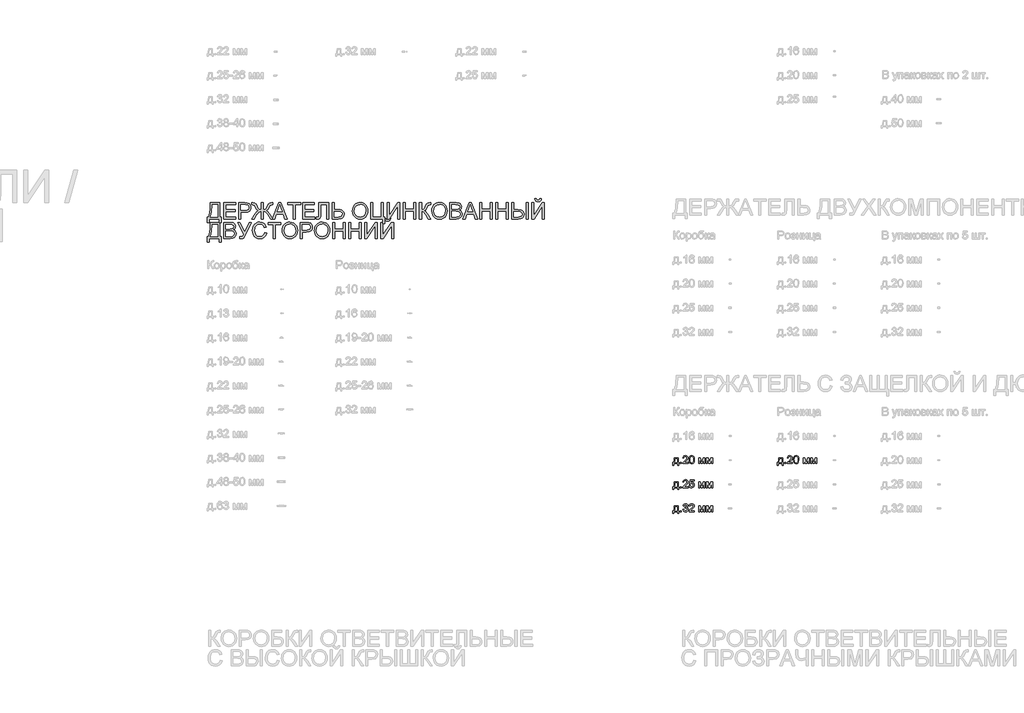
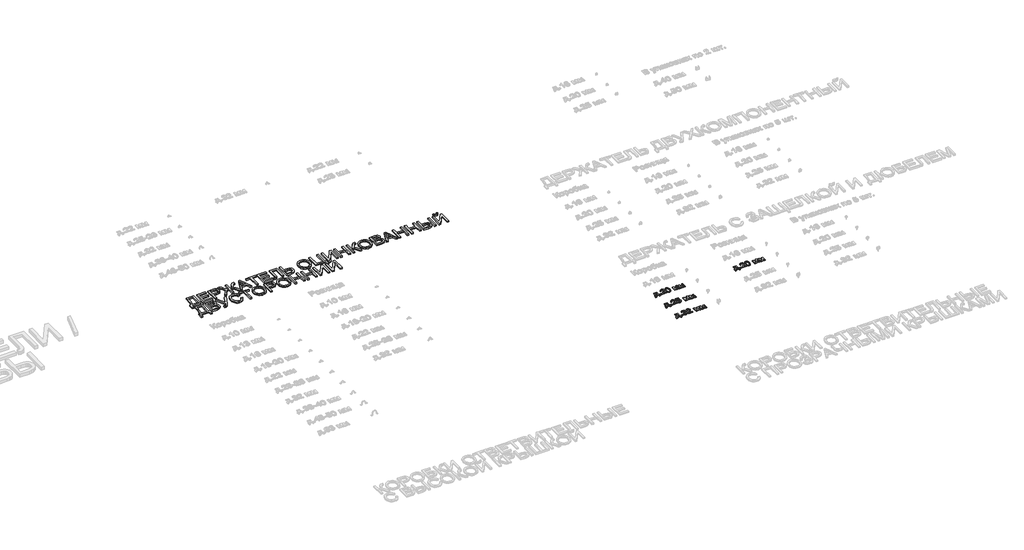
# One storey, part 35 of 98: 5 proxies.
"""IFC4 building model written with IfcOpenShell, lengths in millimetres."""

from ifc_helpers import new_model, si_unit, origin, origin_with_axes, place, context, project, spatial, polyline, outline, extrude, element, save

model = new_model("IFC4")

# Units and contexts
model_context = context("Model", 3, world=origin())
ifc_project = project(units=[si_unit("LENGTHUNIT", "METRE", prefix="MILLI")], contexts=[model_context])

# Site, building, storey
site = spatial("IfcSite", under=ifc_project)
building = spatial("IfcBuilding", under=site)
storey = spatial("IfcBuildingStorey", under=building, Name="Этаж 01", Elevation=0.0)

# Proxies
placement = place(None, origin())
element("IfcBuildingElementProxy", 1, Name="100", ObjectType="100", at=placement, inside=storey, context=model_context, shape_type="SweptSolid", body=[
    extrude(outline(polyline([(5774.7606918, -39085.7395637), (5821.8495872, -39085.7395637), (5821.8495872, -39146.9551277), (5831.2673663, -39146.9551277), (5831.2673663, -39179.9173545), (5818.7103275, -39179.9173545), (5818.7103275, -39159.5121665), (5766.9125426, -39159.5121665), (5766.9125426, -39179.9173545), (5754.3555038, -39179.9173545), (5754.3555038, -39146.9551277), (5762.2036531, -39146.9551277), (5771.903475, -39123.0060098), (5774.7606918, -39085.7395637)]), holes=[polyline([(5785.7481007, -39098.2966025), (5782.8050448, -39126.905559), (5776.3303217, -39146.9551277), (5809.2925484, -39146.9551277), (5809.2925484, -39098.2966025), (5785.7481007, -39098.2966025)])]), origin_with_axes(), (0.0, 0.0, 1.0), 10.0),
    extrude(outline(polyline([(5848.5332946, -39159.5121665), (5848.5332946, -39146.9551277), (5861.0903334, -39146.9551277), (5861.0903334, -39159.5121665), (5848.5332946, -39159.5121665)])), origin_with_axes(), (0.0, 0.0, 1.0), 10.0),
    extrude(outline(polyline([(5945.850345, -39146.9551277), (5945.850345, -39159.5121665), (5879.9258915, -39159.5121665), (5881.2747922, -39150.8546768), (5888.9022122, -39137.5250859), (5904.6230361, -39122.9692216), (5926.3035484, -39102.0489988), (5931.7236764, -39087.8242283), (5926.6101167, -39076.3095219), (5913.2560003, -39071.6128951), (5899.3377981, -39076.1991573), (5894.0525601, -39088.8788234), (5881.4955214, -39087.3091935), (5884.5397449, -39075.1629563), (5891.1217669, -39066.2908689), (5900.8982309, -39060.8646095), (5913.5257804, -39059.0558563), (5926.2453004, -39061.0669445), (5936.0033703, -39067.1002093), (5942.211379, -39076.1133182), (5944.2807152, -39087.0639389), (5942.0488978, -39098.9710528), (5934.6299442, -39111.2828369), (5916.6405146, -39128.4874515), (5902.195015, -39140.5662437), (5896.5296322, -39146.9551277), (5945.850345, -39146.9551277)])), origin_with_axes(), (0.0, 0.0, 1.0), 10.0),
    extrude(outline(polyline([(5958.4073838, -39110.0933518), (5962.0984665, -39081.1900897), (5973.06135, -39064.5250353), (5991.3696106, -39059.0558563), (6006.0358395, -39062.2932179), (6016.1648571, -39071.6251578), (6022.050969, -39086.4875904), (6024.3318374, -39110.0933518), (6020.6775429, -39138.8739865), (6009.7514476, -39155.5758291), (6001.520088, -39159.7053045), (5991.3696106, -39161.0817963), (5978.3220625, -39158.6905633), (5968.4137741, -39151.5168644), (5960.9089814, -39134.5268476), (5958.4073838, -39110.0933518)]), holes=[polyline([(5970.9644226, -39110.0688263), (5972.4359506, -39129.8210238), (5976.8505345, -39141.2529568), (5983.4233595, -39146.7068073), (5991.3696106, -39148.5247575), (5999.3158617, -39146.700676), (6005.8886867, -39141.2284313), (6010.3032706, -39129.7903669), (6011.7747986, -39110.0688263), (6010.3523215, -39090.7611529), (6006.0848904, -39079.2403151), (5999.5243281, -39073.5197501), (5991.2224578, -39071.6128951), (5983.3620458, -39073.2928895), (5977.0467382, -39078.3328729), (5972.4850015, -39090.5710806), (5970.9644226, -39110.0688263)])]), origin_with_axes(), (0.0, 0.0, 1.0), 10.0),
    extrude(outline(polyline([(6077.6992521, -39085.7395637), (6099.306188, -39085.7395637), (6115.9589796, -39144.7968867), (6133.911621, -39085.7395637), (6154.6111146, -39085.7395637), (6154.6111146, -39159.5121665), (6142.0540758, -39159.5121665), (6142.0540758, -39100.111487), (6124.0033326, -39159.5121665), (6107.5222192, -39159.5121665), (6090.2562909, -39097.2665329), (6090.2562909, -39159.5121665), (6077.6992521, -39159.5121665), (6077.6992521, -39085.7395637)])), origin_with_axes(), (0.0, 0.0, 1.0), 10.0),
    extrude(outline(polyline([(6173.4466727, -39085.7395637), (6195.0536086, -39085.7395637), (6211.7064002, -39144.7968867), (6229.6590416, -39085.7395637), (6250.3585352, -39085.7395637), (6250.3585352, -39159.5121665), (6237.8014964, -39159.5121665), (6237.8014964, -39100.111487), (6219.7507532, -39159.5121665), (6203.2696398, -39159.5121665), (6186.0037115, -39097.2665329), (6186.0037115, -39159.5121665), (6173.4466727, -39159.5121665), (6173.4466727, -39085.7395637)])), origin_with_axes(), (0.0, 0.0, 1.0), 10.0),
])
element("IfcBuildingElementProxy", 2, Name="100", ObjectType="100", at=placement, inside=storey, context=model_context, shape_type="SweptSolid", body=[
    extrude(outline(polyline([(5774.7606918, -39385.7395637), (5821.8495872, -39385.7395637), (5821.8495872, -39446.9551277), (5831.2673663, -39446.9551277), (5831.2673663, -39479.9173545), (5818.7103275, -39479.9173545), (5818.7103275, -39459.5121665), (5766.9125426, -39459.5121665), (5766.9125426, -39479.9173545), (5754.3555038, -39479.9173545), (5754.3555038, -39446.9551277), (5762.2036531, -39446.9551277), (5771.903475, -39423.0060098), (5774.7606918, -39385.7395637)]), holes=[polyline([(5785.7481007, -39398.2966025), (5782.8050448, -39426.905559), (5776.3303217, -39446.9551277), (5809.2925484, -39446.9551277), (5809.2925484, -39398.2966025), (5785.7481007, -39398.2966025)])]), origin_with_axes(), (0.0, 0.0, 1.0), 10.0),
    extrude(outline(polyline([(5848.5332946, -39459.5121665), (5848.5332946, -39446.9551277), (5861.0903334, -39446.9551277), (5861.0903334, -39459.5121665), (5848.5332946, -39459.5121665)])), origin_with_axes(), (0.0, 0.0, 1.0), 10.0),
    extrude(outline(polyline([(5945.850345, -39446.9551277), (5945.850345, -39459.5121665), (5879.9258915, -39459.5121665), (5881.2747922, -39450.8546768), (5888.9022122, -39437.5250859), (5904.6230361, -39422.9692216), (5926.3035484, -39402.0489988), (5931.7236764, -39387.8242283), (5926.6101167, -39376.3095219), (5913.2560003, -39371.6128951), (5899.3377981, -39376.1991573), (5894.0525601, -39388.8788234), (5881.4955214, -39387.3091935), (5884.5397449, -39375.1629563), (5891.1217669, -39366.2908689), (5900.8982309, -39360.8646095), (5913.5257804, -39359.0558563), (5926.2453004, -39361.0669445), (5936.0033703, -39367.1002093), (5942.211379, -39376.1133182), (5944.2807152, -39387.0639389), (5942.0488978, -39398.9710528), (5934.6299442, -39411.2828369), (5916.6405146, -39428.4874515), (5902.195015, -39440.5662437), (5896.5296322, -39446.9551277), (5945.850345, -39446.9551277)])), origin_with_axes(), (0.0, 0.0, 1.0), 10.0),
    extrude(outline(polyline([(5958.4073838, -39432.8284591), (5970.9644226, -39431.2588292), (5977.2919929, -39444.1960127), (5990.4131174, -39448.5247575), (5999.4139635, -39447.019507), (6006.1584668, -39442.5037555), (6010.3707156, -39435.4986692), (6011.7747986, -39426.5254142), (6006.5140861, -39411.6139307), (5999.9075386, -39407.5120464), (5990.6093211, -39406.1447517), (5979.585124, -39408.3275182), (5972.5340524, -39413.9929009), (5959.9770137, -39412.4232711), (5970.9644226, -39360.6254862), (6019.6229478, -39360.6254862), (6019.6229478, -39373.1825249), (5981.1179657, -39373.1825249), (5975.7468885, -39400.847251), (5984.7170778, -39395.4025974), (5994.1164628, -39393.5877129), (6005.8488328, -39395.8379245), (6015.5885086, -39402.5885591), (6022.1460052, -39412.8769922), (6024.3318374, -39425.7405993), (6022.3636687, -39438.2976381), (6016.4591627, -39449.0397923), (6005.1529227, -39458.0712953), (5990.3640665, -39461.0817963), (5978.0308226, -39459.1473501), (5968.2053076, -39453.3440117), (5961.4700014, -39444.3462312), (5958.4073838, -39432.8284591)])), origin_with_axes(), (0.0, 0.0, 1.0), 10.0),
    extrude(outline(polyline([(6077.6992521, -39385.7395637), (6099.306188, -39385.7395637), (6115.9589796, -39444.7968867), (6133.911621, -39385.7395637), (6154.6111146, -39385.7395637), (6154.6111146, -39459.5121665), (6142.0540758, -39459.5121665), (6142.0540758, -39400.111487), (6124.0033326, -39459.5121665), (6107.5222192, -39459.5121665), (6090.2562909, -39397.2665329), (6090.2562909, -39459.5121665), (6077.6992521, -39459.5121665), (6077.6992521, -39385.7395637)])), origin_with_axes(), (0.0, 0.0, 1.0), 10.0),
    extrude(outline(polyline([(6173.4466727, -39385.7395637), (6195.0536086, -39385.7395637), (6211.7064002, -39444.7968867), (6229.6590416, -39385.7395637), (6250.3585352, -39385.7395637), (6250.3585352, -39459.5121665), (6237.8014964, -39459.5121665), (6237.8014964, -39400.111487), (6219.7507532, -39459.5121665), (6203.2696398, -39459.5121665), (6186.0037115, -39397.2665329), (6186.0037115, -39459.5121665), (6173.4466727, -39459.5121665), (6173.4466727, -39385.7395637)])), origin_with_axes(), (0.0, 0.0, 1.0), 10.0),
])
element("IfcBuildingElementProxy", 3, Name="100", ObjectType="100", at=placement, inside=storey, context=model_context, shape_type="SweptSolid", body=[
    extrude(outline(polyline([(5774.7606918, -39685.7395637), (5821.8495872, -39685.7395637), (5821.8495872, -39746.9551277), (5831.2673663, -39746.9551277), (5831.2673663, -39779.9173545), (5818.7103275, -39779.9173545), (5818.7103275, -39759.5121665), (5766.9125426, -39759.5121665), (5766.9125426, -39779.9173545), (5754.3555038, -39779.9173545), (5754.3555038, -39746.9551277), (5762.2036531, -39746.9551277), (5771.903475, -39723.0060098), (5774.7606918, -39685.7395637)]), holes=[polyline([(5785.7481007, -39698.2966025), (5782.8050448, -39726.905559), (5776.3303217, -39746.9551277), (5809.2925484, -39746.9551277), (5809.2925484, -39698.2966025), (5785.7481007, -39698.2966025)])]), origin_with_axes(), (0.0, 0.0, 1.0), 10.0),
    extrude(outline(polyline([(5848.5332946, -39759.5121665), (5848.5332946, -39746.9551277), (5861.0903334, -39746.9551277), (5861.0903334, -39759.5121665), (5848.5332946, -39759.5121665)])), origin_with_axes(), (0.0, 0.0, 1.0), 10.0),
    extrude(outline(polyline([(5881.4955214, -39732.8284591), (5894.0525601, -39731.2588292), (5900.9810044, -39744.4780556), (5913.9427133, -39748.5247575), (5922.551152, -39747.1329373), (5929.1975534, -39742.9574767), (5934.8629361, -39729.1741646), (5929.2466043, -39716.1879302), (5914.9727829, -39711.049845), (5906.1681405, -39712.4232711), (5907.5660921, -39699.8662323), (5909.5771803, -39700.0133851), (5923.8264763, -39696.4081416), (5928.572154, -39691.8341421), (5930.1540466, -39685.3226308), (5925.5677844, -39675.5001815), (5913.7465096, -39671.6128951), (5901.778082, -39675.5369697), (5895.62219, -39687.3091935), (5883.0651512, -39685.7395637), (5886.7623653, -39674.4639805), (5893.3413216, -39666.0456142), (5902.3421678, -39660.8032958), (5913.3050512, -39659.0558563), (5928.4495267, -39662.5016843), (5939.0445281, -39671.9194634), (5942.7110854, -39684.5868668), (5939.2284691, -39696.1628869), (5928.9277733, -39704.47702), (5942.6129835, -39713.0609332), (5947.4199749, -39729.3948938), (5945.0164792, -39741.6331015), (5937.8059921, -39751.860221), (5926.9228164, -39758.7764025), (5913.5012549, -39761.0817963), (5901.3611491, -39759.1136276), (5891.4773862, -39753.2091216), (5884.6041242, -39744.1776186), (5881.4955214, -39732.8284591)])), origin_with_axes(), (0.0, 0.0, 1.0), 10.0),
    extrude(outline(polyline([(6022.7622075, -39746.9551277), (6022.7622075, -39759.5121665), (5956.837754, -39759.5121665), (5958.1866546, -39750.8546768), (5965.8140747, -39737.5250859), (5981.5348986, -39722.9692216), (6003.2154108, -39702.0489988), (6008.6355389, -39687.8242283), (6003.5219792, -39676.3095219), (5990.1678627, -39671.6128951), (5976.2496606, -39676.1991573), (5970.9644226, -39688.8788234), (5958.4073838, -39687.3091935), (5961.4516073, -39675.1629563), (5968.0336294, -39666.2908689), (5977.8100934, -39660.8646095), (5990.4376429, -39659.0558563), (6003.1571628, -39661.0669445), (6012.9152328, -39667.1002093), (6019.1232414, -39676.1133182), (6021.1925777, -39687.0639389), (6018.9607602, -39698.9710528), (6011.5418067, -39711.2828369), (5993.5523771, -39728.4874515), (5979.1068774, -39740.5662437), (5973.4414947, -39746.9551277), (6022.7622075, -39746.9551277)])), origin_with_axes(), (0.0, 0.0, 1.0), 10.0),
    extrude(outline(polyline([(6077.6992521, -39685.7395637), (6099.306188, -39685.7395637), (6115.9589796, -39744.7968867), (6133.911621, -39685.7395637), (6154.6111146, -39685.7395637), (6154.6111146, -39759.5121665), (6142.0540758, -39759.5121665), (6142.0540758, -39700.111487), (6124.0033326, -39759.5121665), (6107.5222192, -39759.5121665), (6090.2562909, -39697.2665329), (6090.2562909, -39759.5121665), (6077.6992521, -39759.5121665), (6077.6992521, -39685.7395637)])), origin_with_axes(), (0.0, 0.0, 1.0), 10.0),
    extrude(outline(polyline([(6173.4466727, -39685.7395637), (6195.0536086, -39685.7395637), (6211.7064002, -39744.7968867), (6229.6590416, -39685.7395637), (6250.3585352, -39685.7395637), (6250.3585352, -39759.5121665), (6237.8014964, -39759.5121665), (6237.8014964, -39700.111487), (6219.7507532, -39759.5121665), (6203.2696398, -39759.5121665), (6186.0037115, -39697.2665329), (6186.0037115, -39759.5121665), (6173.4466727, -39759.5121665), (6173.4466727, -39685.7395637)])), origin_with_axes(), (0.0, 0.0, 1.0), 10.0),
])
element("IfcBuildingElementProxy", 4, Name="100", ObjectType="100", at=placement, inside=storey, context=model_context, shape_type="SweptSolid", body=[
    extrude(outline(polyline([(7074.7606918, -39085.7395637), (7121.8495872, -39085.7395637), (7121.8495872, -39146.9551277), (7131.2673663, -39146.9551277), (7131.2673663, -39179.9173545), (7118.7103275, -39179.9173545), (7118.7103275, -39159.5121665), (7066.9125426, -39159.5121665), (7066.9125426, -39179.9173545), (7054.3555038, -39179.9173545), (7054.3555038, -39146.9551277), (7062.2036531, -39146.9551277), (7071.903475, -39123.0060098), (7074.7606918, -39085.7395637)]), holes=[polyline([(7085.7481007, -39098.2966025), (7082.8050448, -39126.905559), (7076.3303217, -39146.9551277), (7109.2925484, -39146.9551277), (7109.2925484, -39098.2966025), (7085.7481007, -39098.2966025)])]), origin_with_axes(), (0.0, 0.0, 1.0), 10.0),
    extrude(outline(polyline([(7148.5332946, -39159.5121665), (7148.5332946, -39146.9551277), (7161.0903334, -39146.9551277), (7161.0903334, -39159.5121665), (7148.5332946, -39159.5121665)])), origin_with_axes(), (0.0, 0.0, 1.0), 10.0),
    extrude(outline(polyline([(7245.850345, -39146.9551277), (7245.850345, -39159.5121665), (7179.9258915, -39159.5121665), (7181.2747922, -39150.8546768), (7188.9022122, -39137.5250859), (7204.6230361, -39122.9692216), (7226.3035484, -39102.0489988), (7231.7236764, -39087.8242283), (7226.6101167, -39076.3095219), (7213.2560003, -39071.6128951), (7199.3377981, -39076.1991573), (7194.0525601, -39088.8788234), (7181.4955214, -39087.3091935), (7184.5397449, -39075.1629563), (7191.1217669, -39066.2908689), (7200.8982309, -39060.8646095), (7213.5257804, -39059.0558563), (7226.2453004, -39061.0669445), (7236.0033703, -39067.1002093), (7242.211379, -39076.1133182), (7244.2807152, -39087.0639389), (7242.0488978, -39098.9710528), (7234.6299442, -39111.2828369), (7216.6405146, -39128.4874515), (7202.195015, -39140.5662437), (7196.5296322, -39146.9551277), (7245.850345, -39146.9551277)])), origin_with_axes(), (0.0, 0.0, 1.0), 10.0),
    extrude(outline(polyline([(7258.4073838, -39110.0933518), (7262.0984665, -39081.1900897), (7273.06135, -39064.5250353), (7291.3696106, -39059.0558563), (7306.0358395, -39062.2932179), (7316.1648571, -39071.6251578), (7322.050969, -39086.4875904), (7324.3318374, -39110.0933518), (7320.6775429, -39138.8739865), (7309.7514476, -39155.5758291), (7301.520088, -39159.7053045), (7291.3696106, -39161.0817963), (7278.3220625, -39158.6905633), (7268.4137741, -39151.5168644), (7260.9089814, -39134.5268476), (7258.4073838, -39110.0933518)]), holes=[polyline([(7270.9644226, -39110.0688263), (7272.4359506, -39129.8210238), (7276.8505345, -39141.2529568), (7283.4233595, -39146.7068073), (7291.3696106, -39148.5247575), (7299.3158617, -39146.700676), (7305.8886867, -39141.2284313), (7310.3032706, -39129.7903669), (7311.7747986, -39110.0688263), (7310.3523215, -39090.7611529), (7306.0848904, -39079.2403151), (7299.5243281, -39073.5197501), (7291.2224578, -39071.6128951), (7283.3620458, -39073.2928895), (7277.0467382, -39078.3328729), (7272.4850015, -39090.5710806), (7270.9644226, -39110.0688263)])]), origin_with_axes(), (0.0, 0.0, 1.0), 10.0),
    extrude(outline(polyline([(7377.6992521, -39085.7395637), (7399.306188, -39085.7395637), (7415.9589796, -39144.7968867), (7433.911621, -39085.7395637), (7454.6111146, -39085.7395637), (7454.6111146, -39159.5121665), (7442.0540758, -39159.5121665), (7442.0540758, -39100.111487), (7424.0033326, -39159.5121665), (7407.5222192, -39159.5121665), (7390.2562909, -39097.2665329), (7390.2562909, -39159.5121665), (7377.6992521, -39159.5121665), (7377.6992521, -39085.7395637)])), origin_with_axes(), (0.0, 0.0, 1.0), 10.0),
    extrude(outline(polyline([(7473.4466727, -39085.7395637), (7495.0536086, -39085.7395637), (7511.7064002, -39144.7968867), (7529.6590416, -39085.7395637), (7550.3585352, -39085.7395637), (7550.3585352, -39159.5121665), (7537.8014964, -39159.5121665), (7537.8014964, -39100.111487), (7519.7507532, -39159.5121665), (7503.2696398, -39159.5121665), (7486.0037115, -39097.2665329), (7486.0037115, -39159.5121665), (7473.4466727, -39159.5121665), (7473.4466727, -39085.7395637)])), origin_with_axes(), (0.0, 0.0, 1.0), 10.0),
])
element("IfcBuildingElementProxy", 5, Name="200", ObjectType="200", at=placement, inside=storey, context=model_context, shape_type="SweptSolid", body=[
    extrude(outline(polyline([(-6.5806255, -35907.274613), (112.7112428, -35907.274613), (112.7112428, -36083.0731558), (131.546801, -36083.0731558), (131.546801, -36155.2761287), (106.4327234, -36155.2761287), (106.4327234, -36108.1872333), (-22.2769239, -36108.1872333), (-22.2769239, -36155.2761287), (-47.3910015, -36155.2761287), (-47.3910015, -36083.0731558), (-31.694703, -36083.0731558), (-20.7072941, -36060.2920632), (-12.8591449, -36028.2464758), (-8.1502553, -35986.9363934), (-6.5806255, -35936.3618161), (-6.5806255, -35907.274613)]), holes=[polyline([(87.5971653, -35932.3886906), (18.5334521, -35932.3886906), (18.5334521, -35942.4931827), (13.4321551, -36011.3116413), (5.8783114, -36051.0796849), (-6.5806255, -36083.0731558), (87.5971653, -36083.0731558), (87.5971653, -35932.3886906)])]), origin_with_axes(), (0.0, 0.0, 1.0), 20.0),
    extrude(outline(polyline([(162.9393979, -36108.1872333), (162.9393979, -35907.274613), (307.3453437, -35907.274613), (307.3453437, -35932.3886906), (188.0534754, -35932.3886906), (188.0534754, -35992.0346247), (301.0668244, -35992.0346247), (301.0668244, -36017.1487023), (188.0534754, -36017.1487023), (188.0534754, -36083.0731558), (310.4846034, -36083.0731558), (310.4846034, -36108.1872333), (162.9393979, -36108.1872333)])), origin_with_axes(), (0.0, 0.0, 1.0), 20.0),
    extrude(outline(polyline([(348.1557197, -36108.1872333), (348.1557197, -35907.274613), (422.6150356, -35907.274613), (452.6342064, -35909.1875994), (477.0370454, -35918.580853), (485.9091328, -35926.9072488), (492.8559712, -35938.0050224), (497.3441315, -35951.09549), (498.840185, -35965.3999683), (494.7996144, -35989.079306), (482.6779026, -36008.8100437), (472.9704165, -36016.5784852), (460.0102404, -36022.1273719), (424.3318182, -36026.5664813), (373.2697973, -36026.5664813), (373.2697973, -36108.1872333), (348.1557197, -36108.1872333)]), holes=[polyline([(373.2697973, -36001.4524038), (425.8033462, -36001.4524038), (448.0724696, -35999.14701), (462.7877494, -35992.2308284), (470.9915179, -35981.1330549), (473.7261074, -35966.2828851), (472.113558, -35955.0011705), (467.2759098, -35945.4852896), (459.8140366, -35938.3238534), (450.3288125, -35934.1054732), (425.214735, -35932.3886906), (373.2697973, -35932.3886906), (373.2697973, -36001.4524038)])]), origin_with_axes(), (0.0, 0.0, 1.0), 20.0),
    extrude(outline(polyline([(652.6639099, -35907.274613), (652.6639099, -35995.1738844), (671.0334842, -35993.4816272), (682.5849788, -35988.4048557), (691.6226132, -35976.6571573), (702.4506066, -35954.9521196), (716.675377, -35926.8704606), (732.5924047, -35912.9154703), (755.2294101, -35907.274613), (771.9557782, -35907.5689186), (771.9557782, -35932.3886906), (766.4620737, -35932.2415378), (760.8212165, -35932.094385), (749.0857808, -35933.6272266), (740.8574869, -35938.2257516), (725.6516977, -35963.8793894), (709.5875173, -35992.5987104), (689.8935678, -36005.2783765), (709.7469328, -36017.0015495), (728.9871612, -36041.1836593), (771.9557782, -36108.1872333), (742.7704732, -36108.1872333), (706.3256302, -36051.3372023), (681.2360782, -36022.446203), (669.0040018, -36016.1186327), (652.6639099, -36014.0094426), (652.6639099, -36108.1872333), (627.5498323, -36108.1872333), (627.5498323, -36014.0094426), (613.7971771, -36015.6465174), (601.7735672, -36020.5577421), (589.6763809, -36030.876832), (575.7029965, -36048.7375029), (573.888112, -36051.3372023), (537.443269, -36108.1872333), (508.257964, -36108.1872333), (551.1775301, -36041.1836593), (570.6384877, -36016.9279731), (590.3692254, -36005.2783765), (571.7298709, -35993.9230856), (554.5620445, -35963.8793894), (538.914797, -35937.6861913), (530.8336558, -35933.7130657), (519.5396786, -35932.3886906), (508.257964, -35932.6829962), (508.257964, -35907.5689186), (524.1014153, -35907.274613), (547.645863, -35912.792843), (563.2685851, -35926.625206), (577.7631357, -35955.0011705), (588.5972604, -35976.9453315), (597.555187, -35988.527483), (609.0637621, -35993.3896567), (627.5498323, -35995.1738844), (627.5498323, -35907.274613), (652.6639099, -35907.274613)])), origin_with_axes(), (0.0, 0.0, 1.0), 20.0),
    extrude(outline(polyline([(767.3940414, -36108.1872333), (847.5923164, -35907.274613), (868.978523, -35907.274613), (949.176798, -36108.1872333), (922.6402434, -36108.1872333), (899.635356, -36045.4020395), (816.8864325, -36045.4020395), (793.930596, -36108.1872333), (767.3940414, -36108.1872333)]), holes=[polyline([(826.1080079, -36020.2879619), (890.4628316, -36020.2879619), (872.3630374, -35970.8936727), (858.2854197, -35932.3886906), (845.7774319, -35966.5771907), (826.1080079, -36020.2879619)])]), origin_with_axes(), (0.0, 0.0, 1.0), 20.0),
    extrude(outline(polyline([(1026.2358133, -36108.1872333), (1026.2358133, -35932.3886906), (960.3113597, -35932.3886906), (960.3113597, -35907.274613), (1117.2743443, -35907.274613), (1117.2743443, -35932.3886906), (1051.3498908, -35932.3886906), (1051.3498908, -36108.1872333), (1026.2358133, -36108.1872333)])), origin_with_axes(), (0.0, 0.0, 1.0), 20.0),
    extrude(outline(polyline([(1145.5276816, -36108.1872333), (1145.5276816, -35907.274613), (1289.9336274, -35907.274613), (1289.9336274, -35932.3886906), (1170.6417591, -35932.3886906), (1170.6417591, -35992.0346247), (1283.655108, -35992.0346247), (1283.655108, -36017.1487023), (1170.6417591, -36017.1487023), (1170.6417591, -36083.0731558), (1293.0728871, -36083.0731558), (1293.0728871, -36108.1872333), (1145.5276816, -36108.1872333)])), origin_with_axes(), (0.0, 0.0, 1.0), 20.0),
    extrude(outline(polyline([(1346.4403019, -35907.274613), (1468.8714299, -35907.274613), (1468.8714299, -36108.1872333), (1443.7573523, -36108.1872333), (1443.7573523, -35932.3886906), (1371.5543794, -35932.3886906), (1371.5543794, -36034.9051399), (1368.6358489, -36080.6451346), (1364.1170317, -36093.5700554), (1356.3976412, -36103.2576146), (1345.8271652, -36109.3092734), (1332.7550916, -36111.326493), (1311.9084452, -36108.1872333), (1315.0477049, -36083.0731558), (1327.0651834, -36086.2124155), (1335.5571262, -36084.5262897), (1341.608785, -36079.4679122), (1345.2324226, -36068.1555409), (1346.4403019, -36047.7074333), (1346.4403019, -35907.274613)])), origin_with_axes(), (0.0, 0.0, 1.0), 20.0),
    extrude(outline(polyline([(1512.8210655, -35907.274613), (1537.9351431, -35907.274613), (1537.9351431, -35992.0346247), (1584.9749875, -35992.0346247), (1613.3570835, -35994.0027934), (1632.6770196, -35999.9072994), (1645.3812111, -36009.2024512), (1653.9160734, -36021.342557), (1658.7537217, -36035.107475), (1660.3662711, -36049.2770632), (1656.4912474, -36071.3254574), (1644.8661763, -36090.4798466), (1635.4483973, -36098.2268283), (1622.6951548, -36103.7603867), (1587.1822795, -36108.1872333), (1512.8210655, -36108.1872333), (1512.8210655, -35907.274613)]), holes=[polyline([(1537.9351431, -36083.0731558), (1587.1332286, -36083.0731558), (1611.8794241, -36080.5899523), (1626.177771, -36073.1403419), (1632.9835879, -36062.1835898), (1635.2521935, -36049.1789613), (1633.6089873, -36038.6452735), (1628.6793686, -36029.8038429), (1621.009029, -36023.2248865), (1611.1436601, -36019.4786216), (1573.9875786, -36017.1487023), (1537.9351431, -36017.1487023), (1537.9351431, -36083.0731558)])]), origin_with_axes(), (0.0, 0.0, 1.0), 20.0),
    extrude(outline(polyline([(1763.9618409, -36010.3796735), (1765.635704, -35986.8137661), (1770.6572932, -35965.9517913), (1779.0266086, -35947.7937491), (1790.7436502, -35932.3396396), (1805.1063764, -35920.0002644), (1821.4127458, -35911.1864249), (1839.6627585, -35905.8981212), (1859.8564143, -35904.1353533), (1886.2090279, -35907.4462913), (1909.8393147, -35917.3791052), (1929.4596878, -35933.2348192), (1943.7825602, -35954.3144575), (1952.5381516, -35979.6002133), (1955.4566821, -36008.0742797), (1952.3848675, -36036.9284909), (1943.1694235, -36062.5698659), (1928.3192536, -36083.6862924), (1908.3432613, -36098.965658), (1884.9153096, -36108.2362843), (1859.7092615, -36111.326493), (1832.9519777, -36107.9113218), (1809.1868009, -36097.6658083), (1789.6154787, -36081.5157887), (1775.4397592, -36060.3870994), (1766.8313205, -36036.0762309), (1763.9618409, -36010.3796735)]), holes=[polyline([(1789.0759185, -36010.6249282), (1794.0975077, -36042.0543133), (1809.1622754, -36066.0034312), (1831.8054122, -36081.1601694), (1859.5621087, -36086.2124155), (1887.7234755, -36081.1111185), (1910.4034005, -36065.8072275), (1919.1268023, -36054.53471), (1925.3578036, -36041.1223456), (1930.3426046, -36007.878076), (1928.208889, -35985.6457407), (1921.8077423, -35966.4300379), (1911.3047114, -35950.7153453), (1896.865343, -35938.986041), (1879.4461306, -35931.6835834), (1860.0035671, -35929.2494309), (1832.9887659, -35933.9399263), (1810.0206667, -35948.0114126), (1800.8573393, -35958.9605005), (1794.3121055, -35973.0457824), (1789.0759185, -36010.6249282)])]), origin_with_axes(), (0.0, 0.0, 1.0), 20.0),
    extrude(outline(polyline([(1989.9885388, -35907.274613), (2015.1026163, -35907.274613), (2015.1026163, -36083.0731558), (2121.8374458, -36083.0731558), (2121.8374458, -35907.274613), (2146.9515234, -35907.274613), (2146.9515234, -36083.0731558), (2165.7870815, -36083.0731558), (2165.7870815, -36164.6939078), (2140.673004, -36164.6939078), (2140.673004, -36108.1872333), (1989.9885388, -36108.1872333), (1989.9885388, -35907.274613)])), origin_with_axes(), (0.0, 0.0, 1.0), 20.0),
    extrude(outline(polyline([(2197.1796784, -35907.274613), (2222.293756, -35907.274613), (2222.293756, -36066.3958387), (2327.4589557, -35907.274613), (2354.142663, -35907.274613), (2354.142663, -36108.1872333), (2329.0285855, -36108.1872333), (2329.0285855, -35949.5074661), (2224.1086405, -36108.1872333), (2197.1796784, -36108.1872333), (2197.1796784, -35907.274613)])), origin_with_axes(), (0.0, 0.0, 1.0), 20.0),
    extrude(outline(polyline([(2398.0922987, -36108.1872333), (2398.0922987, -35907.274613), (2423.2063763, -35907.274613), (2423.2063763, -35988.895365), (2529.9412058, -35988.895365), (2529.9412058, -35907.274613), (2555.0552833, -35907.274613), (2555.0552833, -36108.1872333), (2529.9412058, -36108.1872333), (2529.9412058, -36014.0094426), (2423.2063763, -36014.0094426), (2423.2063763, -36108.1872333), (2398.0922987, -36108.1872333)])), origin_with_axes(), (0.0, 0.0, 1.0), 20.0),
    extrude(outline(polyline([(2599.004919, -35907.274613), (2624.1189966, -35907.274613), (2624.1189966, -35995.1738844), (2641.1212761, -35993.5122841), (2652.2006555, -35988.527483), (2661.1585821, -35976.7981787), (2671.7965031, -35954.9030687), (2685.6533916, -35926.8214097), (2701.3496901, -35912.9154703), (2723.7904918, -35907.274613), (2740.2716052, -35907.5689186), (2740.2716052, -35932.6829962), (2734.7288498, -35932.5358434), (2729.1860944, -35932.3886906), (2717.6836507, -35933.8970067), (2709.5657213, -35938.4219553), (2694.6542378, -35964.2717968), (2676.8732747, -35995.7624956), (2659.53377, -36006.1612933), (2678.9211511, -36017.5165842), (2698.0387521, -36041.1836593), (2740.2716052, -36108.1872333), (2711.1353512, -36108.1872333), (2675.4262722, -36051.582457), (2650.2876692, -36022.0292701), (2638.6809922, -36016.0143994), (2624.1189966, -36014.0094426), (2624.1189966, -36108.1872333), (2599.004919, -36108.1872333), (2599.004919, -35907.274613)])), origin_with_axes(), (0.0, 0.0, 1.0), 20.0),
    extrude(outline(polyline([(2752.828644, -36010.3796735), (2754.502507, -35986.8137661), (2759.5240963, -35965.9517913), (2767.8934117, -35947.7937491), (2779.6104532, -35932.3396396), (2793.9731794, -35920.0002644), (2810.2795489, -35911.1864249), (2828.5295615, -35905.8981212), (2848.7232174, -35904.1353533), (2875.0758309, -35907.4462913), (2898.7061178, -35917.3791052), (2918.3264908, -35933.2348192), (2932.6493632, -35954.3144575), (2941.4049547, -35979.6002133), (2944.3234852, -36008.0742797), (2941.2516705, -36036.9284909), (2932.0362265, -36062.5698659), (2917.1860567, -36083.6862924), (2897.2100643, -36098.965658), (2873.7821126, -36108.2362843), (2848.5760646, -36111.326493), (2821.8187808, -36107.9113218), (2798.0536039, -36097.6658083), (2778.4822817, -36081.5157887), (2764.3065622, -36060.3870994), (2755.6981235, -36036.0762309), (2752.828644, -36010.3796735)]), holes=[polyline([(2777.9427215, -36010.6249282), (2782.9643107, -36042.0543133), (2798.0290784, -36066.0034312), (2820.6722152, -36081.1601694), (2848.4289118, -36086.2124155), (2876.5902785, -36081.1111185), (2899.2702035, -36065.8072275), (2907.9936053, -36054.53471), (2914.2246066, -36041.1223456), (2919.2094076, -36007.878076), (2917.0756921, -35985.6457407), (2910.6745453, -35966.4300379), (2900.1715144, -35950.7153453), (2885.7321461, -35938.986041), (2868.3129336, -35931.6835834), (2848.8703702, -35929.2494309), (2821.855569, -35933.9399263), (2798.8874697, -35948.0114126), (2789.7241424, -35958.9605005), (2783.1789086, -35973.0457824), (2777.9427215, -36010.6249282)])]), origin_with_axes(), (0.0, 0.0, 1.0), 20.0),
    extrude(outline(polyline([(2978.8553418, -36108.1872333), (2978.8553418, -35907.274613), (3055.5219496, -35907.274613), (3076.6077193, -35908.7522724), (3093.0704386, -35913.1852504), (3105.688791, -35920.6839118), (3115.2414601, -35931.358621), (3121.2563308, -35943.9156597), (3123.2612876, -35957.0613097), (3121.5751618, -35969.158496), (3116.5167844, -35980.532181), (3108.0493671, -35990.483389), (3096.1361218, -35998.3131441), (3110.3670237, -36005.7443604), (3120.8823174, -36017.0506004), (3127.3754346, -36031.4838373), (3129.539807, -36048.2960445), (3123.6291696, -36075.298583), (3108.9874662, -36094.5265486), (3087.1352757, -36104.7291426), (3054.9333384, -36108.1872333), (2978.8553418, -36108.1872333)]), holes=[polyline([(3003.9694193, -35988.895365), (3049.8320414, -35988.895365), (3076.6138506, -35986.737124), (3092.727082, -35977.4419722), (3098.1472101, -35961.0834862), (3093.094964, -35944.7004747), (3078.6249389, -35935.0129155), (3046.3494252, -35932.3886906), (3003.9694193, -35932.3886906), (3003.9694193, -35988.895365)]), polyline([(3003.9694193, -36083.0731558), (3055.4728986, -36083.0731558), (3074.1122531, -36082.0921371), (3089.8821279, -36076.6229581), (3100.3299766, -36065.463871), (3104.4257295, -36048.5412992), (3099.6187381, -36029.019028), (3093.3218246, -36021.961825), (3084.0450669, -36017.3694315), (3053.020352, -36014.0094426), (3003.9694193, -36014.0094426), (3003.9694193, -36083.0731558)])]), origin_with_axes(), (0.0, 0.0, 1.0), 20.0),
    extrude(outline(polyline([(3140.6743687, -36108.1872333), (3220.8726437, -35907.274613), (3242.2588503, -35907.274613), (3322.4571253, -36108.1872333), (3295.9205707, -36108.1872333), (3272.9156833, -36045.4020395), (3190.1667598, -36045.4020395), (3167.2109233, -36108.1872333), (3140.6743687, -36108.1872333)]), holes=[polyline([(3199.3883352, -36020.2879619), (3263.7431589, -36020.2879619), (3245.6433647, -35970.8936727), (3231.565747, -35932.3886906), (3219.0577592, -35966.5771907), (3199.3883352, -36020.2879619)])]), origin_with_axes(), (0.0, 0.0, 1.0), 20.0),
    extrude(outline(polyline([(3349.2879855, -36108.1872333), (3349.2879855, -35907.274613), (3374.402063, -35907.274613), (3374.402063, -35988.895365), (3481.1368925, -35988.895365), (3481.1368925, -35907.274613), (3506.2509701, -35907.274613), (3506.2509701, -36108.1872333), (3481.1368925, -36108.1872333), (3481.1368925, -36014.0094426), (3374.402063, -36014.0094426), (3374.402063, -36108.1872333), (3349.2879855, -36108.1872333)])), origin_with_axes(), (0.0, 0.0, 1.0), 20.0),
    extrude(outline(polyline([(3550.2006058, -36108.1872333), (3550.2006058, -35907.274613), (3575.3146833, -35907.274613), (3575.3146833, -35988.895365), (3682.0495128, -35988.895365), (3682.0495128, -35907.274613), (3707.1635904, -35907.274613), (3707.1635904, -36108.1872333), (3682.0495128, -36108.1872333), (3682.0495128, -36014.0094426), (3575.3146833, -36014.0094426), (3575.3146833, -36108.1872333), (3550.2006058, -36108.1872333)])), origin_with_axes(), (0.0, 0.0, 1.0), 20.0),
    extrude(outline(polyline([(3926.9117688, -35907.274613), (3952.0258464, -35907.274613), (3952.0258464, -36108.1872333), (3926.9117688, -36108.1872333), (3926.9117688, -35907.274613)])), origin_with_axes(), (0.0, 0.0, 1.0), 20.0),
    extrude(outline(polyline([(3751.1132261, -35907.274613), (3776.2273036, -35907.274613), (3776.2273036, -35992.0346247), (3824.4934214, -35992.0346247), (3863.7709557, -35996.4246832), (3877.3304729, -36001.9122563), (3886.8371568, -36009.5948586), (3898.0575577, -36028.3323149), (3901.7976913, -36049.424216), (3897.8429598, -36071.4542161), (3885.9787655, -36090.553423), (3876.3724469, -36098.268215), (3863.3724169, -36103.7787808), (3827.1912227, -36108.1872333), (3751.1132261, -36108.1872333), (3751.1132261, -35907.274613)]), holes=[polyline([(3776.2273036, -36083.0731558), (3826.945968, -36083.0731558), (3849.5032657, -36081.0804616), (3864.8868644, -36075.1023792), (3873.7344264, -36064.7342383), (3876.6836137, -36049.5713688), (3874.8993861, -36038.620748), (3869.546703, -36029.6076392), (3861.36746, -36023.0225514), (3851.1035524, -36019.3559942), (3813.3588596, -36017.1487023), (3776.2273036, -36017.1487023), (3776.2273036, -36083.0731558)])]), origin_with_axes(), (0.0, 0.0, 1.0), 20.0),
    extrude(outline(polyline([(4099.5710519, -35857.046458), (4118.40661, -35857.046458), (4114.3537767, -35873.1290325), (4106.2174533, -35884.9809641), (4094.3655217, -35892.2834217), (4079.1658639, -35894.7175743), (4062.6724878, -35892.3018158), (4049.8824571, -35885.0545405), (4041.1391283, -35873.221003), (4036.7858581, -35857.046458), (4055.6214162, -35857.046458), (4062.6847505, -35871.197652), (4076.909521, -35875.8820161), (4092.5077176, -35871.3448048), (4099.5710519, -35857.046458)])), origin_with_axes(), (0.0, 0.0, 1.0), 20.0),
    extrude(outline(polyline([(3999.1147417, -35907.274613), (4024.2288193, -35907.274613), (4024.2288193, -36066.3958387), (4129.394019, -35907.274613), (4156.0777264, -35907.274613), (4156.0777264, -36108.1872333), (4130.9636488, -36108.1872333), (4130.9636488, -35949.5074661), (4026.0437038, -36108.1872333), (3999.1147417, -36108.1872333), (3999.1147417, -35907.274613)])), origin_with_axes(), (0.0, 0.0, 1.0), 20.0),
    extrude(outline(polyline([(-6.5806255, -36151.2242487), (112.7112428, -36151.2242487), (112.7112428, -36327.0227915), (131.546801, -36327.0227915), (131.546801, -36399.2257644), (106.4327234, -36399.2257644), (106.4327234, -36352.136869), (-22.2769239, -36352.136869), (-22.2769239, -36399.2257644), (-47.3910015, -36399.2257644), (-47.3910015, -36327.0227915), (-31.694703, -36327.0227915), (-20.7072941, -36304.2416989), (-12.8591449, -36272.1961115), (-8.1502553, -36230.8860291), (-6.5806255, -36180.3114518), (-6.5806255, -36151.2242487)]), holes=[polyline([(87.5971653, -36176.3383263), (18.5334521, -36176.3383263), (18.5334521, -36186.4428184), (13.4321551, -36255.261277), (5.8783114, -36295.0293206), (-6.5806255, -36327.0227915), (87.5971653, -36327.0227915), (87.5971653, -36176.3383263)])]), origin_with_axes(), (0.0, 0.0, 1.0), 20.0),
    extrude(outline(polyline([(162.9393979, -36352.136869), (162.9393979, -36151.2242487), (239.6060057, -36151.2242487), (260.6917754, -36152.7019081), (277.1544947, -36157.1348861), (289.7728471, -36164.6335474), (299.3255163, -36175.3082567), (305.3403869, -36187.8652954), (307.3453437, -36201.0109454), (305.6592179, -36213.1081317), (300.6008405, -36224.4818167), (292.1334232, -36234.4330247), (280.220178, -36242.2627798), (294.4510798, -36249.6939961), (304.9663735, -36261.0002361), (311.4594907, -36275.433473), (313.6238631, -36292.2456802), (307.7132257, -36319.2482186), (293.0715223, -36338.4761843), (271.2193318, -36348.6787783), (239.0173945, -36352.136869), (162.9393979, -36352.136869)]), holes=[polyline([(188.0534754, -36232.8450007), (233.9160975, -36232.8450007), (260.6979068, -36230.6867597), (276.8111381, -36221.3916079), (282.2312662, -36205.0331219), (277.1790201, -36188.6501104), (262.708995, -36178.9625512), (230.4334813, -36176.3383263), (188.0534754, -36176.3383263), (188.0534754, -36232.8450007)]), polyline([(188.0534754, -36327.0227915), (239.5569548, -36327.0227915), (258.1963092, -36326.0417728), (273.9661841, -36320.5725938), (284.4140327, -36309.4135066), (288.5097856, -36292.4909349), (283.7027942, -36272.9686637), (277.4058807, -36265.9114607), (268.1291231, -36261.3190671), (237.1044081, -36257.9590783), (188.0534754, -36257.9590783), (188.0534754, -36327.0227915)])]), origin_with_axes(), (0.0, 0.0, 1.0), 20.0),
    extrude(outline(polyline([(334.0290511, -36151.2242487), (361.84093, -36151.2242487), (421.9283225, -36270.2218114), (475.9824503, -36151.2242487), (503.5490745, -36151.2242487), (427.2748742, -36307.7457749), (406.5263296, -36346.2017062), (396.6793549, -36353.0075231), (383.3252385, -36355.2761287), (360.7127585, -36352.136869), (360.7127585, -36330.1620512), (380.4802844, -36330.1620512), (395.1465133, -36324.5702448), (408.7336216, -36299.1128108), (334.0290511, -36151.2242487)])), origin_with_axes(), (0.0, 0.0, 1.0), 20.0),
    extrude(outline(polyline([(668.3602083, -36280.718711), (693.4742859, -36287.1934341), (681.886003, -36316.4584469), (663.7003697, -36337.8385221), (639.8125655, -36350.9167271), (611.1177699, -36355.2761287), (581.9876472, -36351.9774535), (558.8540011, -36342.0814278), (541.1220889, -36325.9314082), (528.1971682, -36303.8707513), (520.3060994, -36277.9350706), (517.6757431, -36250.15998), (520.6494559, -36220.8643104), (529.5705943, -36195.5662919), (543.9731744, -36175.0691334), (563.3912124, -36160.1760439), (586.4206253, -36151.1077528), (611.6573302, -36148.084989), (639.1932975, -36151.9968009), (661.9590616, -36163.7322366), (679.243384, -36182.5677947), (690.3350262, -36207.7799741), (665.2209487, -36213.7641879), (656.5144081, -36195.4497959), (644.6195569, -36182.8866258), (629.3892423, -36175.6209564), (610.6763115, -36173.1990666), (589.1061639, -36175.8846051), (571.3865144, -36183.9412208), (557.9404275, -36196.5227851), (549.1909674, -36212.7831692), (544.3901073, -36231.1650063), (542.7898207, -36250.110929), (544.6844129, -36273.3120202), (550.3681898, -36293.3738517), (560.055749, -36309.5300026), (573.9616884, -36321.0140522), (590.6328741, -36327.8750514), (608.6161723, -36330.1620512), (629.5793147, -36327.0473169), (647.0475781, -36317.7031143), (660.2361476, -36302.227545), (668.3602083, -36280.718711)])), origin_with_axes(), (0.0, 0.0, 1.0), 20.0),
    extrude(outline(polyline([(778.2342976, -36352.136869), (778.2342976, -36176.3383263), (712.309844, -36176.3383263), (712.309844, -36151.2242487), (869.2728286, -36151.2242487), (869.2728286, -36176.3383263), (803.3483751, -36176.3383263), (803.3483751, -36352.136869), (778.2342976, -36352.136869)])), origin_with_axes(), (0.0, 0.0, 1.0), 20.0),
    extrude(outline(polyline([(888.1083868, -36254.3293092), (889.7822499, -36230.7634018), (894.8038391, -36209.9014269), (903.1731545, -36191.7433848), (914.890196, -36176.2892753), (929.2529223, -36163.9499001), (945.5592917, -36155.1360606), (963.8093044, -36149.8477569), (984.0029602, -36148.084989), (1010.3555738, -36151.395927), (1033.9858606, -36161.3287409), (1053.6062337, -36177.1844548), (1067.929106, -36198.2640932), (1076.6846975, -36223.549849), (1079.603228, -36252.0239154), (1076.5314134, -36280.8781266), (1067.3159694, -36306.5195016), (1052.4657995, -36327.6359281), (1032.4898072, -36342.9152937), (1009.0618554, -36352.18592), (983.8558074, -36355.2761287), (957.0985236, -36351.8609575), (933.3333467, -36341.615444), (913.7620246, -36325.4654244), (899.586305, -36304.3367351), (890.9778664, -36280.0258666), (888.1083868, -36254.3293092)]), holes=[polyline([(913.2224643, -36254.5745639), (918.2440536, -36286.003949), (933.3088213, -36309.9530669), (955.9519581, -36325.1098051), (983.7086546, -36330.1620512), (1011.8700213, -36325.0607542), (1034.5499463, -36309.7568632), (1043.2733482, -36298.4843457), (1049.5043494, -36285.0719813), (1054.4891505, -36251.8277117), (1052.3554349, -36229.5953764), (1045.9542882, -36210.3796735), (1035.4512572, -36194.664981), (1021.0118889, -36182.9356767), (1003.5926765, -36175.6332191), (984.150113, -36173.1990666), (957.1353118, -36177.889562), (934.1672126, -36191.9610483), (925.0038852, -36202.9101362), (918.4586514, -36216.9954181), (913.2224643, -36254.5745639)])]), origin_with_axes(), (0.0, 0.0, 1.0), 20.0),
    extrude(outline(polyline([(1114.1350846, -36352.136869), (1114.1350846, -36151.2242487), (1188.5944005, -36151.2242487), (1218.6135713, -36153.1372351), (1243.0164103, -36162.5304887), (1251.8884977, -36170.8568845), (1258.8353361, -36181.954658), (1263.3234964, -36195.0451257), (1264.8195499, -36209.349604), (1260.7789793, -36233.0289417), (1248.6572675, -36252.7596794), (1238.9497814, -36260.5281209), (1225.9896053, -36266.0770076), (1190.3111831, -36270.516117), (1139.2491622, -36270.516117), (1139.2491622, -36352.136869), (1114.1350846, -36352.136869)]), holes=[polyline([(1139.2491622, -36245.4020395), (1191.7827111, -36245.4020395), (1214.0518345, -36243.0966456), (1228.7671143, -36236.1804641), (1236.9708828, -36225.0826906), (1239.7054723, -36210.2325207), (1238.0929229, -36198.9508062), (1233.2552747, -36189.4349253), (1225.7934015, -36182.2734891), (1216.3081774, -36178.0551089), (1191.1940999, -36176.3383263), (1139.2491622, -36176.3383263), (1139.2491622, -36245.4020395)])]), origin_with_axes(), (0.0, 0.0, 1.0), 20.0),
    extrude(outline(polyline([(1289.9336274, -36254.3293092), (1291.6074905, -36230.7634018), (1296.6290797, -36209.9014269), (1304.9983951, -36191.7433848), (1316.7154366, -36176.2892753), (1331.0781629, -36163.9499001), (1347.3845323, -36155.1360606), (1365.634545, -36149.8477569), (1385.8282008, -36148.084989), (1412.1808144, -36151.395927), (1435.8111012, -36161.3287409), (1455.4314743, -36177.1844548), (1469.7543466, -36198.2640932), (1478.5099381, -36223.549849), (1481.4284686, -36252.0239154), (1478.356654, -36280.8781266), (1469.14121, -36306.5195016), (1454.2910401, -36327.6359281), (1434.3150478, -36342.9152937), (1410.887096, -36352.18592), (1385.681048, -36355.2761287), (1358.9237642, -36351.8609575), (1335.1585873, -36341.615444), (1315.5872652, -36325.4654244), (1301.4115456, -36304.3367351), (1292.803107, -36280.0258666), (1289.9336274, -36254.3293092)]), holes=[polyline([(1315.0477049, -36254.5745639), (1320.0692942, -36286.003949), (1335.1340619, -36309.9530669), (1357.7771987, -36325.1098051), (1385.5338952, -36330.1620512), (1413.6952619, -36325.0607542), (1436.3751869, -36309.7568632), (1445.0985888, -36298.4843457), (1451.32959, -36285.0719813), (1456.3143911, -36251.8277117), (1454.1806755, -36229.5953764), (1447.7795288, -36210.3796735), (1437.2764978, -36194.664981), (1422.8371295, -36182.9356767), (1405.417917, -36175.6332191), (1385.9753536, -36173.1990666), (1358.9605524, -36177.889562), (1335.9924532, -36191.9610483), (1326.8291258, -36202.9101362), (1320.283892, -36216.9954181), (1315.0477049, -36254.5745639)])]), origin_with_axes(), (0.0, 0.0, 1.0), 20.0),
    extrude(outline(polyline([(1515.9603252, -36352.136869), (1515.9603252, -36151.2242487), (1541.0744028, -36151.2242487), (1541.0744028, -36232.8450007), (1647.8092323, -36232.8450007), (1647.8092323, -36151.2242487), (1672.9233098, -36151.2242487), (1672.9233098, -36352.136869), (1647.8092323, -36352.136869), (1647.8092323, -36257.9590783), (1541.0744028, -36257.9590783), (1541.0744028, -36352.136869), (1515.9603252, -36352.136869)])), origin_with_axes(), (0.0, 0.0, 1.0), 20.0),
    extrude(outline(polyline([(1716.8729455, -36352.136869), (1716.8729455, -36151.2242487), (1741.9870231, -36151.2242487), (1741.9870231, -36232.8450007), (1848.7218526, -36232.8450007), (1848.7218526, -36151.2242487), (1873.8359301, -36151.2242487), (1873.8359301, -36352.136869), (1848.7218526, -36352.136869), (1848.7218526, -36257.9590783), (1741.9870231, -36257.9590783), (1741.9870231, -36352.136869), (1716.8729455, -36352.136869)])), origin_with_axes(), (0.0, 0.0, 1.0), 20.0),
    extrude(outline(polyline([(1917.7855658, -36151.2242487), (1942.8996434, -36151.2242487), (1942.8996434, -36310.3454744), (2048.0648431, -36151.2242487), (2074.7485504, -36151.2242487), (2074.7485504, -36352.136869), (2049.6344729, -36352.136869), (2049.6344729, -36193.4571018), (1944.7145279, -36352.136869), (1917.7855658, -36352.136869), (1917.7855658, -36151.2242487)])), origin_with_axes(), (0.0, 0.0, 1.0), 20.0),
    extrude(outline(polyline([(2219.1544963, -36100.9960936), (2237.9900544, -36100.9960936), (2233.9372211, -36117.0786682), (2225.8008977, -36128.9305998), (2213.948966, -36136.2330574), (2198.7493083, -36138.6672099), (2182.2559322, -36136.2514515), (2169.4659015, -36129.0041762), (2160.7225727, -36117.1706387), (2156.3693024, -36100.9960936), (2175.2048606, -36100.9960936), (2182.2681949, -36115.1472877), (2196.4929654, -36119.8316518), (2212.091162, -36115.2944405), (2219.1544963, -36100.9960936)])), origin_with_axes(), (0.0, 0.0, 1.0), 20.0),
    extrude(outline(polyline([(2118.6981861, -36151.2242487), (2143.8122637, -36151.2242487), (2143.8122637, -36310.3454744), (2248.9774634, -36151.2242487), (2275.6611707, -36151.2242487), (2275.6611707, -36352.136869), (2250.5470932, -36352.136869), (2250.5470932, -36193.4571018), (2145.6271482, -36352.136869), (2118.6981861, -36352.136869), (2118.6981861, -36151.2242487)])), origin_with_axes(), (0.0, 0.0, 1.0), 20.0),
])

save(model, "model.ifc")
